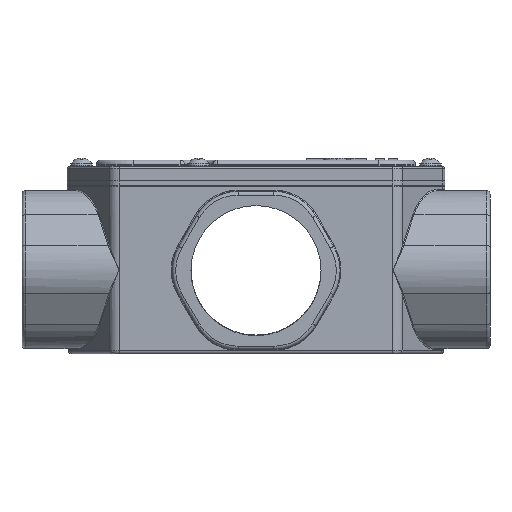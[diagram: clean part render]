
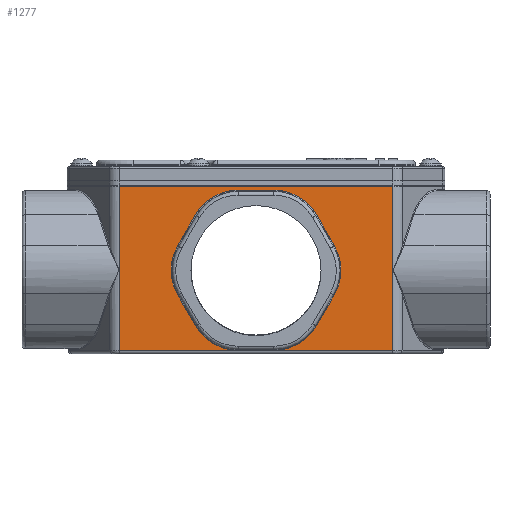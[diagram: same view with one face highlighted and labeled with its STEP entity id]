
A CAD part, front view. The second image highlights one B-rep face of the part: STEP entity #1277.
In plain terms, the highlighted planar face has unit normal (0, -1, -0.007).
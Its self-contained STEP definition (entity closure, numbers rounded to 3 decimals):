
#681=CARTESIAN_POINT('',(34.154,-36.43,25.745));
#682=VERTEX_POINT('',#681);
#690=CARTESIAN_POINT('',(34.154,-36.58,47.245));
#691=VERTEX_POINT('',#690);
#692=CARTESIAN_POINT('',(15.534,-36.505,36.495));
#693=DIRECTION('',(0.0,-1.,-0.007));
#694=DIRECTION('',(1.0,0.0,0.0));
#695=AXIS2_PLACEMENT_3D('',#692,#693,#694);
#696=CIRCLE('',#695,21.5);
#697=EDGE_CURVE('',#682,#691,#696,.T.);
#723=CARTESIAN_POINT('',(26.387,-36.674,60.698));
#724=VERTEX_POINT('',#723);
#741=CARTESIAN_POINT('',(34.154,-36.58,47.245));
#742=DIRECTION('',(-0.5,-0.006,0.866));
#743=VECTOR('',#742,15.534);
#744=LINE('',#741,#743);
#745=EDGE_CURVE('',#691,#724,#744,.T.);
#755=CARTESIAN_POINT('',(7.767,-36.749,71.447));
#756=VERTEX_POINT('',#755);
#774=CARTESIAN_POINT('',(7.767,-36.599,49.948));
#775=DIRECTION('',(0.,-1.,-0.007));
#776=DIRECTION('',(0.5,-0.006,0.866));
#777=AXIS2_PLACEMENT_3D('',#774,#775,#776);
#778=CIRCLE('',#777,21.5);
#779=EDGE_CURVE('',#724,#756,#778,.T.);
#789=CARTESIAN_POINT('',(-7.767,-36.749,71.447));
#790=VERTEX_POINT('',#789);
#807=CARTESIAN_POINT('',(7.767,-36.749,71.447));
#808=DIRECTION('',(-1.0,0.0,0.0));
#809=VECTOR('',#808,15.534);
#810=LINE('',#807,#809);
#811=EDGE_CURVE('',#756,#790,#810,.T.);
#821=CARTESIAN_POINT('',(-26.387,-36.674,60.698));
#822=VERTEX_POINT('',#821);
#840=CARTESIAN_POINT('',(-7.767,-36.599,49.948));
#841=DIRECTION('',(0.,-1.,-0.007));
#842=DIRECTION('',(-0.5,-0.006,0.866));
#843=AXIS2_PLACEMENT_3D('',#840,#841,#842);
#844=CIRCLE('',#843,21.5);
#845=EDGE_CURVE('',#790,#822,#844,.T.);
#855=CARTESIAN_POINT('',(-34.154,-36.58,47.245));
#856=VERTEX_POINT('',#855);
#873=CARTESIAN_POINT('',(-26.387,-36.674,60.698));
#874=DIRECTION('',(-0.5,0.006,-0.866));
#875=VECTOR('',#874,15.534);
#876=LINE('',#873,#875);
#877=EDGE_CURVE('',#822,#856,#876,.T.);
#887=CARTESIAN_POINT('',(-34.154,-36.43,25.745));
#888=VERTEX_POINT('',#887);
#906=CARTESIAN_POINT('',(-15.534,-36.505,36.495));
#907=DIRECTION('',(0.0,-1.,-0.007));
#908=DIRECTION('',(-1.0,0.0,0.0));
#909=AXIS2_PLACEMENT_3D('',#906,#907,#908);
#910=CIRCLE('',#909,21.5);
#911=EDGE_CURVE('',#856,#888,#910,.T.);
#921=CARTESIAN_POINT('',(-26.387,-36.336,12.293));
#922=VERTEX_POINT('',#921);
#939=CARTESIAN_POINT('',(-34.154,-36.43,25.745));
#940=DIRECTION('',(0.5,0.006,-0.866));
#941=VECTOR('',#940,15.534);
#942=LINE('',#939,#941);
#943=EDGE_CURVE('',#888,#922,#942,.T.);
#953=CARTESIAN_POINT('',(-7.767,-36.261,1.543));
#954=VERTEX_POINT('',#953);
#972=CARTESIAN_POINT('',(-7.767,-36.411,23.042));
#973=DIRECTION('',(0.,-1.,-0.007));
#974=DIRECTION('',(-0.5,0.006,-0.866));
#975=AXIS2_PLACEMENT_3D('',#972,#973,#974);
#976=CIRCLE('',#975,21.5);
#977=EDGE_CURVE('',#922,#954,#976,.T.);
#987=CARTESIAN_POINT('',(7.767,-36.261,1.543));
#988=VERTEX_POINT('',#987);
#1005=CARTESIAN_POINT('',(-7.767,-36.261,1.543));
#1006=DIRECTION('',(1.0,0.0,0.0));
#1007=VECTOR('',#1006,15.534);
#1008=LINE('',#1005,#1007);
#1009=EDGE_CURVE('',#954,#988,#1008,.T.);
#1019=CARTESIAN_POINT('',(26.387,-36.336,12.293));
#1020=VERTEX_POINT('',#1019);
#1038=CARTESIAN_POINT('',(7.767,-36.411,23.042));
#1039=DIRECTION('',(0.,-1.,-0.007));
#1040=DIRECTION('',(0.5,0.006,-0.866));
#1041=AXIS2_PLACEMENT_3D('',#1038,#1039,#1040);
#1042=CIRCLE('',#1041,21.5);
#1043=EDGE_CURVE('',#988,#1020,#1042,.T.);
#1054=CARTESIAN_POINT('',(26.387,-36.336,12.293));
#1055=DIRECTION('',(0.5,-0.006,0.866));
#1056=VECTOR('',#1055,15.534);
#1057=LINE('',#1054,#1056);
#1058=EDGE_CURVE('',#1020,#682,#1057,.T.);
#1224=CARTESIAN_POINT('',(81.75,-36.25,0.0));
#1225=DIRECTION('',(0.,-1.,-0.007));
#1226=DIRECTION('',(1.0,0.0,0.0));
#1227=AXIS2_PLACEMENT_3D('',#1224,#1225,#1226);
#1228=PLANE('',#1227);
#1229=CARTESIAN_POINT('',(59.282,-36.26,1.49));
#1230=VERTEX_POINT('',#1229);
#1231=CARTESIAN_POINT('',(-59.282,-36.26,1.49));
#1232=VERTEX_POINT('',#1231);
#1233=CARTESIAN_POINT('',(59.282,-36.26,1.49));
#1234=DIRECTION('',(-1.0,0.0,0.0));
#1235=VECTOR('',#1234,118.564);
#1236=LINE('',#1233,#1235);
#1237=EDGE_CURVE('',#1230,#1232,#1236,.T.);
#1238=ORIENTED_EDGE('',*,*,#1237,.F.);
#1239=CARTESIAN_POINT('',(59.574,-36.76,72.997));
#1240=VERTEX_POINT('',#1239);
#1241=CARTESIAN_POINT('',(59.574,-36.76,72.997));
#1242=DIRECTION('',(-0.004,0.007,-1.));
#1243=VECTOR('',#1242,71.509);
#1244=LINE('',#1241,#1243);
#1245=EDGE_CURVE('',#1240,#1230,#1244,.T.);
#1246=ORIENTED_EDGE('',*,*,#1245,.F.);
#1247=CARTESIAN_POINT('',(-59.574,-36.76,72.997));
#1248=VERTEX_POINT('',#1247);
#1249=CARTESIAN_POINT('',(-59.574,-36.76,72.997));
#1250=DIRECTION('',(1.0,0.0,0.0));
#1251=VECTOR('',#1250,119.148);
#1252=LINE('',#1249,#1251);
#1253=EDGE_CURVE('',#1248,#1240,#1252,.T.);
#1254=ORIENTED_EDGE('',*,*,#1253,.F.);
#1255=CARTESIAN_POINT('',(-59.282,-36.26,1.49));
#1256=DIRECTION('',(-0.004,-0.007,1.));
#1257=VECTOR('',#1256,71.509);
#1258=LINE('',#1255,#1257);
#1259=EDGE_CURVE('',#1232,#1248,#1258,.T.);
#1260=ORIENTED_EDGE('',*,*,#1259,.F.);
#1261=EDGE_LOOP('',(#1238,#1246,#1254,#1260));
#1262=FACE_OUTER_BOUND('',#1261,.T.);
#1263=ORIENTED_EDGE('',*,*,#697,.F.);
#1264=ORIENTED_EDGE('',*,*,#1058,.F.);
#1265=ORIENTED_EDGE('',*,*,#1043,.F.);
#1266=ORIENTED_EDGE('',*,*,#1009,.F.);
#1267=ORIENTED_EDGE('',*,*,#977,.F.);
#1268=ORIENTED_EDGE('',*,*,#943,.F.);
#1269=ORIENTED_EDGE('',*,*,#911,.F.);
#1270=ORIENTED_EDGE('',*,*,#877,.F.);
#1271=ORIENTED_EDGE('',*,*,#845,.F.);
#1272=ORIENTED_EDGE('',*,*,#811,.F.);
#1273=ORIENTED_EDGE('',*,*,#779,.F.);
#1274=ORIENTED_EDGE('',*,*,#745,.F.);
#1275=EDGE_LOOP('',(#1263,#1264,#1265,#1266,#1267,#1268,#1269,#1270,#1271,#1272,#1273,#1274));
#1276=FACE_BOUND('',#1275,.T.);
#1277=ADVANCED_FACE('',(#1262,#1276),#1228,.T.);
